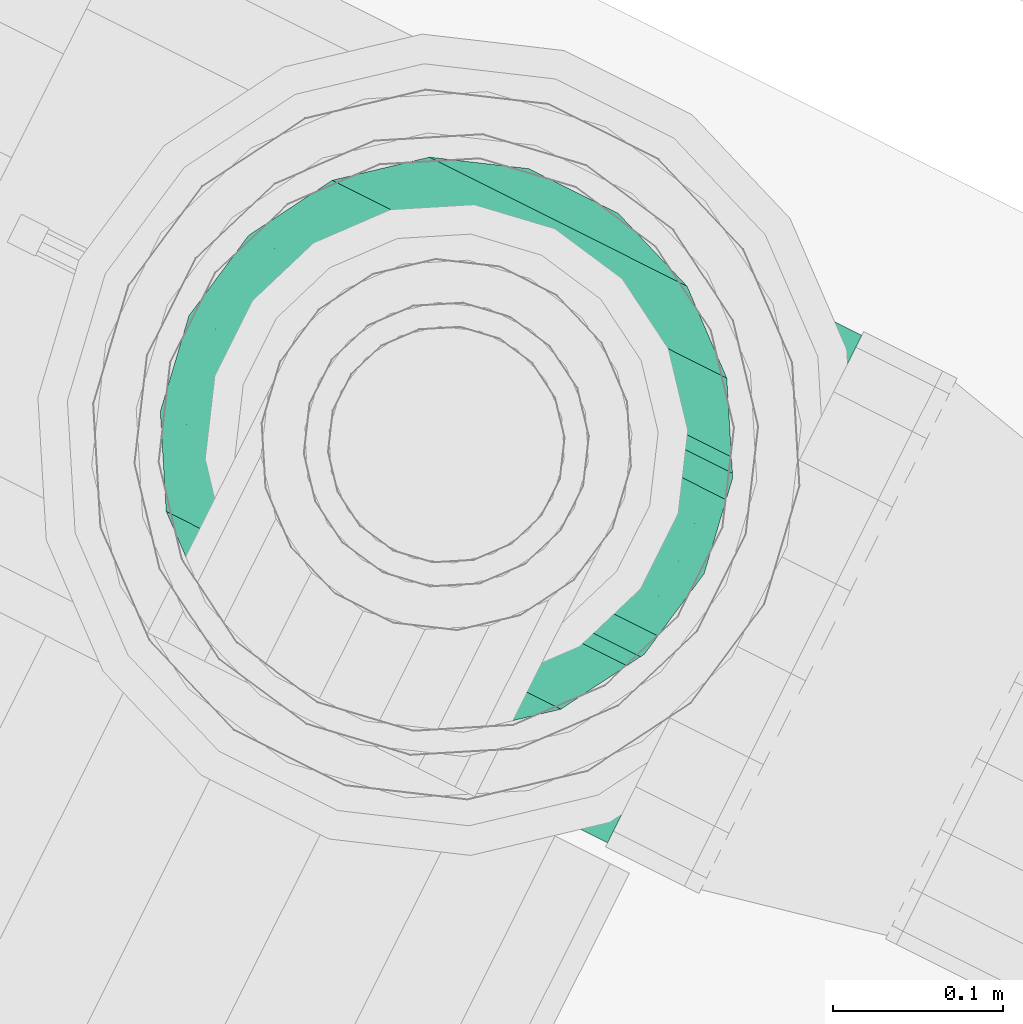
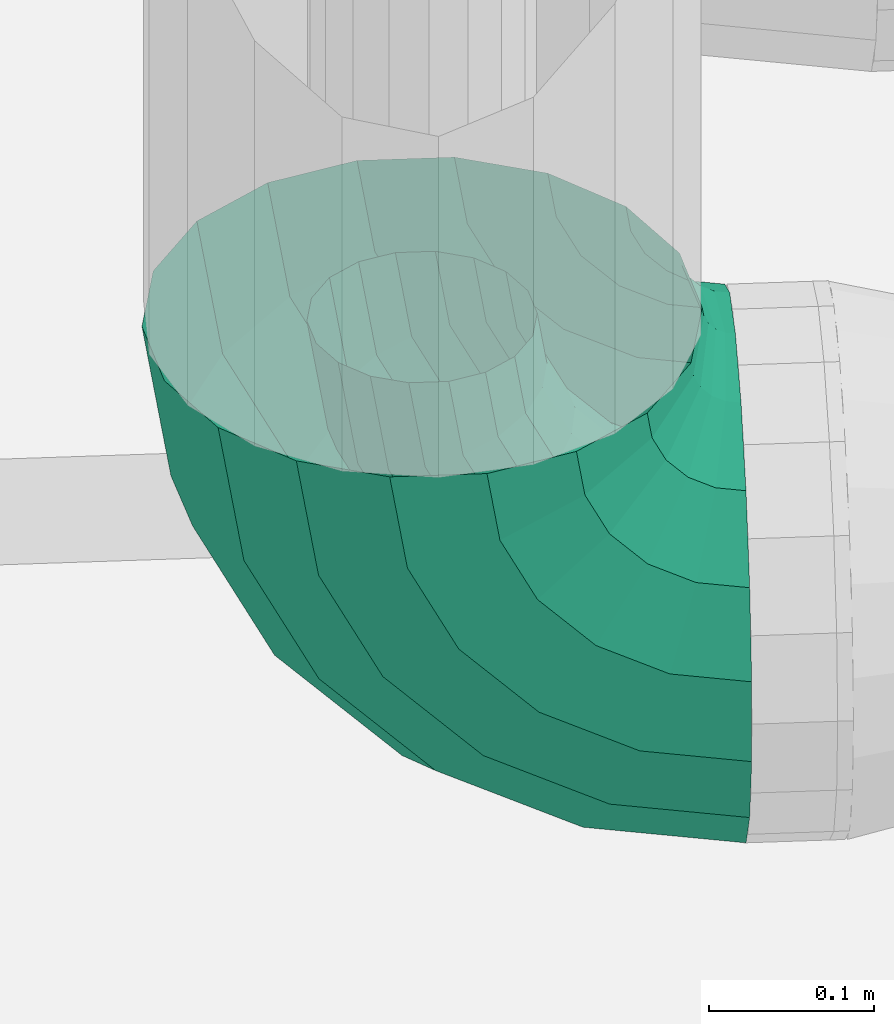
# One storey, part 114 of 152: 1 flow segment.
"""IFC2X3 building model written with IfcOpenShell, lengths in metres."""

from ifc_helpers import new_model, si_unit, derived_unit, direction, frame, origin, place, context, subcontext, project, spatial, face_set, surface_model, source, transform, mapped, material, type_object, type_shapes, element, save


model = new_model("IFC2X3")

# Units and contexts
model_context = context("Model", 3, precision=5.2338327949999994e-05, world=origin(), true_north=direction((0.0, 1.0)))
body_context = subcontext(model_context, "Body", "Model", "MODEL_VIEW")
ifc_project = project(units=[si_unit("LENGTHUNIT", "METRE"), si_unit("AREAUNIT", "SQUARE_METRE"), si_unit("VOLUMEUNIT", "CUBIC_METRE"), si_unit("MASSUNIT", "GRAM", prefix="KILO"), si_unit("PLANEANGLEUNIT", "RADIAN"), derived_unit("THERMALTRANSMITTANCEUNIT", [(si_unit("MASSUNIT", "GRAM", prefix="KILO"), 1), (si_unit("THERMODYNAMICTEMPERATUREUNIT", "KELVIN"), -1), (si_unit("TIMEUNIT", "SECOND"), -3)])], contexts=[model_context])

# Site, building, storey
site_placement = place(None, frame((0.0, 0.0, 0.0), z_axis=(0.0, 0.0, 1.0), x_axis=(0.8939966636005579, -0.4480736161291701, 0.0)))
site = spatial("IfcSite", under=ifc_project, at=site_placement, Name="Default", CompositionType="ELEMENT")
building_placement = place(site_placement, origin())
building = spatial("IfcBuilding", under=site, at=building_placement, CompositionType="ELEMENT")
storey_placement = place(building_placement, frame((0.0, 0.0, 2.7499999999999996)))
storey = spatial("IfcBuildingStorey", under=building, at=storey_placement, Name="1. Obergeschoss", CompositionType="ELEMENT", Elevation=2.7499999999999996)

# Flow segment
ifc_material = material(Name="IfcSurfaceStyle #9317")
distribution_element_type = type_object("IfcDistributionElementType", Name="Rohrbogen 228849:Rohrbogen 228849", material=ifc_material)
shared_shape = source(origin(), body_context, "Body", "SurfaceModel", [
    surface_model("IfcFaceBasedSurfaceModel", [(9.8157708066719, 7.3272083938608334, 3.2553047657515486), (9.8157708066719, 7.303318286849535, 3.2595172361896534), (9.736774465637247, 7.303318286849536, 3.2720290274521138), (9.735472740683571, 7.3272083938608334, 3.268022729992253), (9.665510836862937, 7.303318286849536, 3.3083396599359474), (9.663034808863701, 7.3272083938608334, 3.30493169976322), (9.608955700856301, 7.303318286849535, 3.364894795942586), (9.605547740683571, 7.3272083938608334, 3.3624187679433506), (9.572645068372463, 7.303318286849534, 3.436158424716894), (9.568638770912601, 7.327208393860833, 3.434856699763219), (9.560133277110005, 7.303318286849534, 3.515154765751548), (9.555920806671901, 7.327208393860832, 3.51515476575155), (9.8157708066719, 7.282309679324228, 3.2716465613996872), (9.74052263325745, 7.282309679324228, 3.283564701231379), (9.672640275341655, 7.282309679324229, 3.318152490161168), (9.618768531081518, 7.282309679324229, 3.3720242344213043), (9.584180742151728, 7.282309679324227, 3.4399065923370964), (9.572262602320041, 7.282309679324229, 3.515154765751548), (9.8157708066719, 7.26671651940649, 3.2902297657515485), (9.746265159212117, 7.26671651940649, 3.301238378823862), (9.683563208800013, 7.266716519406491, 3.3331866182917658), (9.633802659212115, 7.266716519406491, 3.3829471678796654), (9.601854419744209, 7.266716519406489, 3.4456491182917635), (9.590845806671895, 7.26671651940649, 3.5151547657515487), (9.8157708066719, 7.25841957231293, 3.3130254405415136), (9.753309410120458, 7.2584195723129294, 3.3229183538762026), (9.696962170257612, 7.25841957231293, 3.35162870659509), (9.652244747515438, 7.258419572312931, 3.396346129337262), (9.623534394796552, 7.258419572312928, 3.4526933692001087), (9.613641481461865, 7.258419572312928, 3.51515476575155), (9.8157708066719, 7.25841957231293, 3.3372840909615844), (9.76080574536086, 7.25841957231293, 3.3459897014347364), (9.711221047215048, 7.258419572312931, 3.371254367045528), (9.671870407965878, 7.25841957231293, 3.410605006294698), (9.646605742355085, 7.2584195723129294, 3.4601897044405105), (9.637900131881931, 7.25841957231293, 3.5151547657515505), (9.8157708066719, 7.266716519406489, 3.360079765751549), (9.767849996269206, 7.266716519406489, 3.3676696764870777), (9.724620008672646, 7.26671651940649, 3.389696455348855), (9.690312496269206, 7.266716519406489, 3.424003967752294), (9.668285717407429, 7.266716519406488, 3.467233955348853), (9.6606958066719, 7.266716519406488, 3.515154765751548), (9.815770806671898, 7.282309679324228, 3.378662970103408), (9.773592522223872, 7.282309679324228, 3.3853433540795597), (9.735542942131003, 7.282309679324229, 3.404730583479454), (9.705346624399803, 7.2823096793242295, 3.434926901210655), (9.685959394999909, 7.282309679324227, 3.472976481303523), (9.679279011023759, 7.282309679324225, 3.51515476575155), (9.8157708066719, 7.303318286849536, 3.3907922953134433), (9.777340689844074, 7.303318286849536, 3.396879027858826), (9.742672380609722, 7.303318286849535, 3.414543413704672), (9.715159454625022, 7.303318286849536, 3.442056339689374), (9.697495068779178, 7.303318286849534, 3.4767246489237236), (9.691408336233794, 7.3033182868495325, 3.5151547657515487), (9.8157708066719, 7.327208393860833, 3.3950047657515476), (9.77864241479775, 7.3272083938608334, 3.4008853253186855), (9.745148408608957, 7.3272083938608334, 3.4179513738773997), (9.71856741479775, 7.3272083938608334, 3.4445323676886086), (9.701501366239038, 7.327208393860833, 3.478026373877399), (9.695620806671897, 7.32720839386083, 3.51515476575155), (9.8157708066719, 7.351098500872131, 3.3907922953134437), (9.777340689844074, 7.351098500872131, 3.3968790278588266), (9.74267238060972, 7.351098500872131, 3.414543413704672), (9.715159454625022, 7.351098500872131, 3.4420563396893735), (9.697495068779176, 7.35109850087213, 3.4767246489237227), (9.691408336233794, 7.351098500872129, 3.5151547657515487), (9.815770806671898, 7.372107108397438, 3.378662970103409), (9.773592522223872, 7.372107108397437, 3.385343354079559), (9.735542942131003, 7.372107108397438, 3.4047305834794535), (9.705346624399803, 7.372107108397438, 3.434926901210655), (9.685959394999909, 7.372107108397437, 3.472976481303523), (9.679279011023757, 7.372107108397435, 3.51515476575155), (9.8157708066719, 7.387700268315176, 3.3600797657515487), (9.767849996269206, 7.387700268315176, 3.367669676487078), (9.724620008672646, 7.387700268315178, 3.3896964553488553), (9.690312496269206, 7.387700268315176, 3.4240039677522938), (9.668285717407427, 7.387700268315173, 3.467233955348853), (9.6606958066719, 7.387700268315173, 3.515154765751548), (9.815770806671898, 7.395997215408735, 3.3372840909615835), (9.76080574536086, 7.395997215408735, 3.3459897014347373), (9.711221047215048, 7.395997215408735, 3.371254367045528), (9.671870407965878, 7.395997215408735, 3.410605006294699), (9.646605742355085, 7.395997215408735, 3.46018970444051), (9.637900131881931, 7.395997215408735, 3.5151547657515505), (9.8157708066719, 7.395997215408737, 3.3130254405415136), (9.753309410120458, 7.395997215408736, 3.3229183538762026), (9.696962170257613, 7.395997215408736, 3.3516287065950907), (9.652244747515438, 7.395997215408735, 3.396346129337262), (9.623534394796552, 7.395997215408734, 3.452693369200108), (9.613641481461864, 7.395997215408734, 3.5151547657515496), (9.8157708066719, 7.387700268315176, 3.290229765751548), (9.746265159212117, 7.387700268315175, 3.3012383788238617), (9.683563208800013, 7.387700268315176, 3.333186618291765), (9.633802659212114, 7.387700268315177, 3.3829471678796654), (9.60185441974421, 7.387700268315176, 3.4456491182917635), (9.590845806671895, 7.387700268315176, 3.5151547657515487), (9.8157708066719, 7.372107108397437, 3.2716465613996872), (9.74052263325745, 7.372107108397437, 3.283564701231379), (9.672640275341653, 7.372107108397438, 3.3181524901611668), (9.618768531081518, 7.372107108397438, 3.3720242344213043), (9.584180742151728, 7.372107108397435, 3.439906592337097), (9.572262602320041, 7.372107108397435, 3.5151547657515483), (9.8157708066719, 7.351098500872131, 3.259517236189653), (9.736774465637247, 7.351098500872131, 3.2720290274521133), (9.665510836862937, 7.351098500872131, 3.3083396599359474), (9.608955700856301, 7.351098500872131, 3.364894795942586), (9.572645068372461, 7.35109850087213, 3.436158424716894), (9.560133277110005, 7.35109850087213, 3.515154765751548), (9.8157708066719, 7.3272083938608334, 3.1553047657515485), (9.8157708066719, 7.2691162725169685, 3.165547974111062), (9.70773636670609, 7.269116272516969, 3.182658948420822), (9.704571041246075, 7.327208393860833, 3.1729170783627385), (9.610277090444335, 7.269116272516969, 3.232316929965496), (9.604256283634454, 7.3272083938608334, 3.224030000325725), (9.532932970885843, 7.269116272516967, 3.3096610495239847), (9.524646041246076, 7.3272083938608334, 3.3036402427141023), (9.48327498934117, 7.269116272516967, 3.4071203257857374), (9.473533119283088, 7.327208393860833, 3.403955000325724), (9.466164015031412, 7.269116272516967, 3.5151547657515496), (9.455920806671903, 7.3272083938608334, 3.5151547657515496), (9.8157708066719, 7.218030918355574, 3.195042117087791), (9.716850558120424, 7.218030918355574, 3.21070954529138), (9.627613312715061, 7.218030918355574, 3.2561781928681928), (9.556794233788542, 7.2180309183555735, 3.326997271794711), (9.51132558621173, 7.2180309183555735, 3.416234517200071), (9.495658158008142, 7.2180309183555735, 3.515154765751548), (9.8157708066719, 7.180113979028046, 3.2402297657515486), (9.730814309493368, 7.180113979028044, 3.2536855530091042), (9.654173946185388, 7.180113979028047, 3.292735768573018), (9.593351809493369, 7.180113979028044, 3.353557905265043), (9.554301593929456, 7.180113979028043, 3.430198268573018), (9.540845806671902, 7.180113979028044, 3.51515476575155), (9.8157708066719, 7.159938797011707, 3.295660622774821), (9.747943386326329, 7.159938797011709, 3.306403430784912), (9.686755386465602, 7.159938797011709, 3.3375802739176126), (9.638196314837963, 7.159938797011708, 3.3861393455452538), (9.607019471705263, 7.159938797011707, 3.4473273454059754), (9.596276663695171, 7.159938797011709, 3.5151547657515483), (9.8157708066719, 7.159938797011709, 3.3546489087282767), (9.766171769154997, 7.159938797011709, 3.3625046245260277), (9.721427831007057, 7.159938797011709, 3.385302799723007), (9.685918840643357, 7.15993879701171, 3.4208117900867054), (9.663120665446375, 7.159938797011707, 3.465555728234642), (9.655264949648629, 7.159938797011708, 3.515154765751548), (9.8157708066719, 7.180113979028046, 3.410079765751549), (9.783300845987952, 7.180113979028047, 3.4152225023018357), (9.754009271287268, 7.1801139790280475, 3.4301473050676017), (9.730763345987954, 7.180113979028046, 3.453393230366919), (9.715838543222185, 7.180113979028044, 3.482684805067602), (9.7106958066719, 7.180113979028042, 3.5151547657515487), (9.8157708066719, 7.218030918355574, 3.455267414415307), (9.797264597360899, 7.218030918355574, 3.4581985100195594), (9.780569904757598, 7.218030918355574, 3.466704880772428), (9.767320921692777, 7.218030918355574, 3.4799538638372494), (9.758814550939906, 7.2180309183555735, 3.4966485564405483), (9.755883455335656, 7.218030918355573, 3.5151547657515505), (9.8157708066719, 7.2691162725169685, 3.4847615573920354), (9.80637878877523, 7.2691162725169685, 3.4862491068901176), (9.79790612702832, 7.269116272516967, 3.4905661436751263), (9.79118218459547, 7.269116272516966, 3.497290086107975), (9.786865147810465, 7.269116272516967, 3.505762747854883), (9.785377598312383, 7.269116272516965, 3.5151547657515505), (9.8157708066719, 7.3272083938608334, 3.4950047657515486), (9.809544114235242, 7.3272083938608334, 3.495990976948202), (9.803926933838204, 7.327208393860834, 3.4988530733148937), (9.799469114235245, 7.3272083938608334, 3.503310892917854), (9.796607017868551, 7.327208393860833, 3.508928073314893), (9.7956208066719, 7.327208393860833, 3.5151547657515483), (9.8157708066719, 7.3853005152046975, 3.4847615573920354), (9.80637878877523, 7.3853005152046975, 3.4862491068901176), (9.79790612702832, 7.3853005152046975, 3.490566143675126), (9.79118218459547, 7.385300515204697, 3.497290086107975), (9.786865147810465, 7.385300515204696, 3.50576274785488), (9.785377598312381, 7.385300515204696, 3.5151547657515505), (9.8157708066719, 7.436385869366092, 3.455267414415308), (9.797264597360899, 7.4363858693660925, 3.4581985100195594), (9.780569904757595, 7.4363858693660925, 3.466704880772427), (9.767320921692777, 7.436385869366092, 3.4799538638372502), (9.758814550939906, 7.436385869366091, 3.496648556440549), (9.755883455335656, 7.436385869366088, 3.5151547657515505), (9.8157708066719, 7.474302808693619, 3.410079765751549), (9.783300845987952, 7.474302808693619, 3.415222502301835), (9.754009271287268, 7.47430280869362, 3.430147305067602), (9.730763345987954, 7.47430280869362, 3.453393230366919), (9.715838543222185, 7.474302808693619, 3.482684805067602), (9.7106958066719, 7.4743028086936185, 3.5151547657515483), (9.8157708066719, 7.494477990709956, 3.3546489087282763), (9.766171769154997, 7.494477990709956, 3.3625046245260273), (9.721427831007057, 7.494477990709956, 3.3853027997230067), (9.685918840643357, 7.494477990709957, 3.4208117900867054), (9.663120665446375, 7.494477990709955, 3.465555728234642), (9.655264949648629, 7.494477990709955, 3.515154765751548), (9.8157708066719, 7.494477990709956, 3.295660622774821), (9.747943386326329, 7.494477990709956, 3.306403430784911), (9.686755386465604, 7.494477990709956, 3.3375802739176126), (9.638196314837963, 7.494477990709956, 3.3861393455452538), (9.607019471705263, 7.494477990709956, 3.4473273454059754), (9.596276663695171, 7.494477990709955, 3.5151547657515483), (9.8157708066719, 7.4743028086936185, 3.240229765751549), (9.730814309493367, 7.474302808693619, 3.2536855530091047), (9.654173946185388, 7.4743028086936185, 3.292735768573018), (9.593351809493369, 7.474302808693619, 3.353557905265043), (9.554301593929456, 7.4743028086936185, 3.430198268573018), (9.540845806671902, 7.4743028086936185, 3.51515476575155), (9.8157708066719, 7.436385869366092, 3.195042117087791), (9.716850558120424, 7.436385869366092, 3.21070954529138), (9.627613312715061, 7.4363858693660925, 3.2561781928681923), (9.556794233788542, 7.436385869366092, 3.3269972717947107), (9.51132558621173, 7.436385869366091, 3.416234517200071), (9.495658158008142, 7.436385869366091, 3.5151547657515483), (9.8157708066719, 7.385300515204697, 3.1655479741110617), (9.70773636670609, 7.3853005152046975, 3.1826589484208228), (9.610277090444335, 7.385300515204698, 3.2323169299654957), (9.532932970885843, 7.385300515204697, 3.309661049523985), (9.483274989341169, 7.385300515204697, 3.4071203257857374), (9.466164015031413, 7.3853005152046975, 3.51515476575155)], [face_set([[[0, 1, 2, 3]], [[3, 2, 4, 5]], [[5, 4, 6, 7]], [[7, 6, 8, 9]], [[9, 8, 10, 11]], [[1, 12, 13, 2]], [[2, 13, 14, 4]], [[4, 14, 15, 6]], [[6, 15, 16, 8]], [[8, 16, 17, 10]], [[12, 18, 19, 13]], [[13, 19, 20, 14]], [[14, 20, 21, 15]], [[15, 21, 22, 16]], [[16, 22, 23, 17]], [[18, 24, 25, 19]], [[19, 25, 26, 20]], [[20, 26, 27, 21]], [[21, 27, 28, 22]], [[22, 28, 29, 23]], [[24, 30, 31, 25]], [[25, 31, 32, 26]], [[26, 32, 33, 27]], [[27, 33, 34, 28]], [[28, 34, 35, 29]], [[30, 36, 37, 31]], [[31, 37, 38, 32]], [[32, 38, 39, 33]], [[33, 39, 40, 34]], [[34, 40, 41, 35]], [[36, 42, 43, 37]], [[37, 43, 44, 38]], [[38, 44, 45, 39]], [[39, 45, 46, 40]], [[40, 46, 47, 41]], [[42, 48, 49, 43]], [[43, 49, 50, 44]], [[44, 50, 51, 45]], [[45, 51, 52, 46]], [[46, 52, 53, 47]], [[48, 54, 55, 49]], [[49, 55, 56, 50]], [[50, 56, 57, 51]], [[51, 57, 58, 52]], [[52, 58, 59, 53]], [[54, 60, 61, 55]], [[55, 61, 62, 56]], [[56, 62, 63, 57]], [[57, 63, 64, 58]], [[58, 64, 65, 59]], [[60, 66, 67, 61]], [[61, 67, 68, 62]], [[62, 68, 69, 63]], [[63, 69, 70, 64]], [[64, 70, 71, 65]], [[66, 72, 73, 67]], [[67, 73, 74, 68]], [[68, 74, 75, 69]], [[69, 75, 76, 70]], [[70, 76, 77, 71]], [[72, 78, 79, 73]], [[73, 79, 80, 74]], [[74, 80, 81, 75]], [[75, 81, 82, 76]], [[76, 82, 83, 77]], [[78, 84, 85, 79]], [[79, 85, 86, 80]], [[80, 86, 87, 81]], [[81, 87, 88, 82]], [[82, 88, 89, 83]], [[84, 90, 91, 85]], [[85, 91, 92, 86]], [[86, 92, 93, 87]], [[87, 93, 94, 88]], [[88, 94, 95, 89]], [[90, 96, 97, 91]], [[91, 97, 98, 92]], [[92, 98, 99, 93]], [[93, 99, 100, 94]], [[94, 100, 101, 95]], [[96, 102, 103, 97]], [[97, 103, 104, 98]], [[98, 104, 105, 99]], [[99, 105, 106, 100]], [[100, 106, 107, 101]], [[102, 0, 3, 103]], [[103, 3, 5, 104]], [[104, 5, 7, 105]], [[105, 7, 9, 106]], [[106, 9, 11, 107]], [[108, 109, 110, 111]], [[111, 110, 112, 113]], [[113, 112, 114, 115]], [[115, 114, 116, 117]], [[117, 116, 118, 119]], [[109, 120, 121, 110]], [[110, 121, 122, 112]], [[112, 122, 123, 114]], [[114, 123, 124, 116]], [[116, 124, 125, 118]], [[120, 126, 127, 121]], [[121, 127, 128, 122]], [[122, 128, 129, 123]], [[123, 129, 130, 124]], [[124, 130, 131, 125]], [[126, 132, 133, 127]], [[127, 133, 134, 128]], [[128, 134, 135, 129]], [[129, 135, 136, 130]], [[130, 136, 137, 131]], [[132, 138, 139, 133]], [[133, 139, 140, 134]], [[134, 140, 141, 135]], [[135, 141, 142, 136]], [[136, 142, 143, 137]], [[138, 144, 145, 139]], [[139, 145, 146, 140]], [[140, 146, 147, 141]], [[141, 147, 148, 142]], [[142, 148, 149, 143]], [[144, 150, 151, 145]], [[145, 151, 152, 146]], [[146, 152, 153, 147]], [[147, 153, 154, 148]], [[148, 154, 155, 149]], [[150, 156, 157, 151]], [[151, 157, 158, 152]], [[152, 158, 159, 153]], [[153, 159, 160, 154]], [[154, 160, 161, 155]], [[156, 162, 163, 157]], [[157, 163, 164, 158]], [[158, 164, 165, 159]], [[159, 165, 166, 160]], [[160, 166, 167, 161]], [[162, 168, 169, 163]], [[163, 169, 170, 164]], [[164, 170, 171, 165]], [[165, 171, 172, 166]], [[166, 172, 173, 167]], [[168, 174, 175, 169]], [[169, 175, 176, 170]], [[170, 176, 177, 171]], [[171, 177, 178, 172]], [[172, 178, 179, 173]], [[174, 180, 181, 175]], [[175, 181, 182, 176]], [[176, 182, 183, 177]], [[177, 183, 184, 178]], [[178, 184, 185, 179]], [[180, 186, 187, 181]], [[181, 187, 188, 182]], [[182, 188, 189, 183]], [[183, 189, 190, 184]], [[184, 190, 191, 185]], [[186, 192, 193, 187]], [[187, 193, 194, 188]], [[188, 194, 195, 189]], [[189, 195, 196, 190]], [[190, 196, 197, 191]], [[192, 198, 199, 193]], [[193, 199, 200, 194]], [[194, 200, 201, 195]], [[195, 201, 202, 196]], [[196, 202, 203, 197]], [[198, 204, 205, 199]], [[199, 205, 206, 200]], [[200, 206, 207, 201]], [[201, 207, 208, 202]], [[202, 208, 209, 203]], [[204, 210, 211, 205]], [[205, 211, 212, 206]], [[206, 212, 213, 207]], [[207, 213, 214, 208]], [[208, 214, 215, 209]], [[210, 108, 111, 211]], [[211, 111, 113, 212]], [[212, 113, 115, 213]], [[213, 115, 117, 214]], [[214, 117, 119, 215]]])]),
])
type_shapes(distribution_element_type, [shared_shape])
flow_segment_placement = place(storey_placement, frame((0.0, 0.0, -2.7499999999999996)))
element("IfcFlowSegment", 1, at=flow_segment_placement, inside=storey, type_object=distribution_element_type, material=ifc_material, Name="Rohrbogen", ObjectType="Rohrbogen", context=body_context, shape_type="MappedRepresentation", body=[
    mapped(shared_shape, transform((0.0, 0.0, 0.0), scale=1.0)),
])

save(model, "model.ifc")
